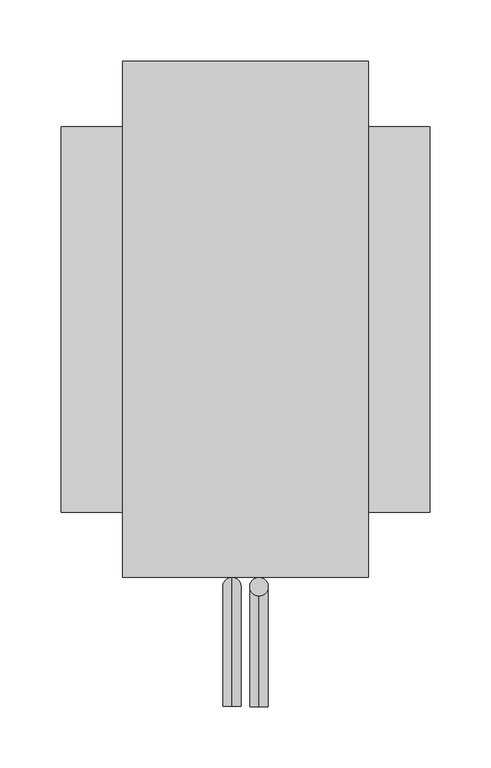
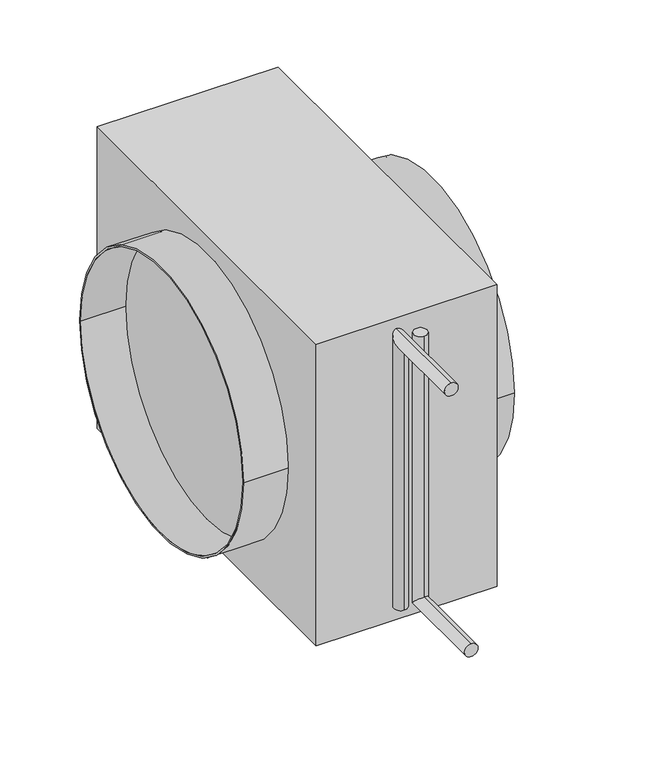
"""IFC4 building model written with IfcOpenShell, lengths in millimetres: proxy geometry, СВ_ВоздухонагревательВодяной_КанальныйКруглый_DN160-315_SKH-W : SKH-W-315."""

from ifc_helpers import new_model, si_unit, point, frame, origin, origin_2d, place, context, project, spatial, polyline, circle_curve, ellipse_curve, trimmed, segment, composite_curve, outline, extrude, source, transform, mapped, element, save
from ifc_brep_helpers import plane_surface, cylinder_surface, advanced_brep


def mechanical_equipment_30f885cd(model_context):
    return source(origin(), model_context, "Body", "SolidModel", [
        advanced_brep(
        [(11.0, -315.0, -164.0), (11.0, -315.0, -149.0), (11.0, -210.0, -164.0), (11.0, -225.0, -149.0), (11.0, -210.0, 156.5), (11.0, -225.0, 156.5)],
        [
            (0, 1, circle_curve(frame((11.0, -315.0, -156.5), z_axis=(0.0, -1.0, 0.0), x_axis=(0.0, 0.0, 1.0)), 7.5)),
            (1, 0, circle_curve(frame((11.0, -315.0, -156.5), z_axis=(0.0, -1.0, 0.0), x_axis=(0.0, 0.0, 1.0)), 7.5)),
            (0, 2),
            (2, 3, ellipse_curve(frame((11.0, -217.5, -156.5), z_axis=(0.0, -0.7071067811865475, -0.7071067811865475), x_axis=(0.0, -0.7071067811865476, 0.7071067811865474)), 10.6066017, 7.5)),
            (3, 1),
            (3, 2, ellipse_curve(frame((11.0, -217.5, -156.5), z_axis=(0.0, -0.7071067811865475, -0.7071067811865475), x_axis=(0.0, -0.7071067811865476, 0.7071067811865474)), 10.6066017, 7.5)),
            (4, 5, circle_curve(frame((11.0, -217.5, 156.5), z_axis=(0.0, 0.0, 1.0), x_axis=(0.0, -1.0, 0.0)), 7.5)),
            (5, 4, circle_curve(frame((11.0, -217.5, 156.5), z_axis=(0.0, 0.0, 1.0), x_axis=(0.0, -1.0, 0.0)), 7.5)),
            (2, 4),
            (5, 3),
        ],
        [
            plane_surface(frame((11.0, -315.0, -156.5), z_axis=(0.0, -1.0, 0.0), x_axis=(1.0, 0.0, 0.0))),
            cylinder_surface(frame((11.0, -315.0, -156.5), z_axis=(0.0, -1.0, 0.0), x_axis=(0.0, 0.0, 1.0)), 7.5),
            plane_surface(frame((11.0, -217.5, 156.5), z_axis=(0.0, 0.0, 1.0), x_axis=(1.0, 0.0, 0.0))),
            cylinder_surface(frame((11.0, -217.5, -156.5), z_axis=(0.0, 0.0, -1.0), x_axis=(0.0, -1.0, 0.0)), 7.5),
        ],
        [
            (0, [[1, 2]]),
            (1, [[-1, 3, 4, 5]]),
            (1, [[-2, -5, 6, -3]]),
            (2, [[7, 8]]),
            (3, [[-4, 9, -8, 10]]),
            (3, [[-6, -10, -7, -9]]),
        ],
    ),
        advanced_brep(
        [(-11.0, -315.0, 149.0), (-11.0, -315.0, 164.0), (-11.0, -225.0, 149.0), (-11.0, -210.0, 164.0), (-11.0, -225.0, -156.5), (-11.0, -210.0, -156.5)],
        [
            (0, 1, circle_curve(frame((-11.0, -315.0, 156.5), z_axis=(0.0, -1.0, 0.0), x_axis=(0.0, 0.0, 1.0)), 7.5)),
            (1, 0, circle_curve(frame((-11.0, -315.0, 156.5), z_axis=(0.0, -1.0, 0.0), x_axis=(0.0, 0.0, 1.0)), 7.5)),
            (0, 2),
            (2, 3, ellipse_curve(frame((-11.0, -217.5, 156.5), z_axis=(0.0, -0.7071067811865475, 0.7071067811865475), x_axis=(0.0, -0.7071067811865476, -0.7071067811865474)), 10.6066017, 7.5)),
            (3, 1),
            (3, 2, ellipse_curve(frame((-11.0, -217.5, 156.5), z_axis=(0.0, -0.7071067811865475, 0.7071067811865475), x_axis=(0.0, -0.7071067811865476, -0.7071067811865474)), 10.6066017, 7.5)),
            (4, 5, circle_curve(frame((-11.0, -217.5, -156.5), z_axis=(0.0, 0.0, -1.0), x_axis=(0.0, 1.0, 0.0)), 7.5)),
            (5, 4, circle_curve(frame((-11.0, -217.5, -156.5), z_axis=(0.0, 0.0, -1.0), x_axis=(0.0, 1.0, 0.0)), 7.5)),
            (2, 4),
            (5, 3),
        ],
        [
            plane_surface(frame((-11.0, -315.0, 156.5), z_axis=(0.0, -1.0, 0.0), x_axis=(1.0, 0.0, 0.0))),
            cylinder_surface(frame((-11.0, -315.0, 156.5), z_axis=(0.0, -1.0, 0.0), x_axis=(0.0, 0.0, 1.0)), 7.5),
            plane_surface(frame((-11.0, -217.5, -156.5), z_axis=(0.0, 0.0, -1.0), x_axis=(1.0, 0.0, 0.0))),
            cylinder_surface(frame((-11.0, -217.5, 156.5), z_axis=(0.0, 0.0, 1.0), x_axis=(0.0, 1.0, 0.0)), 7.5),
        ],
        [
            (0, [[1, 2]]),
            (1, [[-1, 3, 4, 5]]),
            (1, [[-2, -5, 6, -3]]),
            (2, [[7, 8]]),
            (3, [[-4, 9, -8, 10]]),
            (3, [[-6, -10, -7, -9]]),
        ],
    ),
        extrude(outline(polyline([(100.0, -210.0), (-100.0, -210.0), (-100.0, 210.0), (100.0, 210.0), (100.0, -210.0)])), frame((0.0, 0.0, -176.5), z_axis=(0.0, 0.0, 1.0), x_axis=(1.0, 0.0, 0.0)), (0.0, 0.0, 1.0), 353.0),
        extrude(outline(composite_curve([segment(trimmed(circle_curve(origin_2d(), 157.0), [point((-157.0, 0.0))], [point((157.0, 0.0))], False, "CARTESIAN"), True, "CONTINUOUS"), segment(trimmed(circle_curve(origin_2d(), 157.0), [point((157.0, 0.0))], [point((-157.0, 0.0))], False, "CARTESIAN"), True, "CONTINUOUS")], self_intersect=False), holes=[composite_curve([segment(trimmed(circle_curve(origin_2d(), 155.0), [point((-155.0, 0.0))], [point((155.0, 0.0))], True, "CARTESIAN"), True, "CONTINUOUS"), segment(trimmed(circle_curve(origin_2d(), 155.0), [point((155.0, 0.0))], [point((-155.0, 0.0))], True, "CARTESIAN"), True, "CONTINUOUS")], self_intersect=False)]), frame((-150.0, 0.0, 0.0), z_axis=(1.0, 0.0, 0.0), x_axis=(0.0, 1.0, 0.0)), (0.0, 0.0, 1.0), 50.0),
        extrude(outline(composite_curve([segment(trimmed(circle_curve(origin_2d(), 157.0), [point((-157.0, 0.0))], [point((157.0, 0.0))], False, "CARTESIAN"), True, "CONTINUOUS"), segment(trimmed(circle_curve(origin_2d(), 157.0), [point((157.0, 0.0))], [point((-157.0, 0.0))], False, "CARTESIAN"), True, "CONTINUOUS")], self_intersect=False), holes=[composite_curve([segment(trimmed(circle_curve(origin_2d(), 155.0), [point((-155.0, 0.0))], [point((155.0, 0.0))], True, "CARTESIAN"), True, "CONTINUOUS"), segment(trimmed(circle_curve(origin_2d(), 155.0), [point((155.0, 0.0))], [point((-155.0, 0.0))], True, "CARTESIAN"), True, "CONTINUOUS")], self_intersect=False)]), frame((100.0, 0.0, 0.0), z_axis=(1.0, 0.0, 0.0), x_axis=(0.0, 1.0, 0.0)), (0.0, 0.0, 1.0), 50.0),
    ])


if __name__ == "__main__":
    model = new_model("IFC4")
    model_context = context("Model", 3, world=origin())
    ifc_project = project(units=[si_unit("LENGTHUNIT", "METRE", prefix="MILLI")], contexts=[model_context])
    site = spatial("IfcSite", under=ifc_project)
    building = spatial("IfcBuilding", under=site)
    placement = place(None, origin())
    mechanical_equipment_shape = mechanical_equipment_30f885cd(model_context)
    element("IfcBuildingElementProxy", 1, Name="СВ_ВоздухонагревательВодяной_КанальныйКруглый_DN160-315_SKH-W : SKH-W-315", ObjectType="СВ_ВоздухонагревательВодяной_КанальныйКруглый_DN160-315_SKH-W : SKH-W-315", at=placement, inside=building, context=model_context, shape_type="MappedRepresentation", body=[
        mapped(mechanical_equipment_shape, transform((0.0, 0.0, 0.0), x_axis=(1.0, 0.0, 0.0), y_axis=(0.0, 1.0, 0.0), z_axis=(0.0, 0.0, 1.0))),
    ])
    save(model, "model.ifc")
